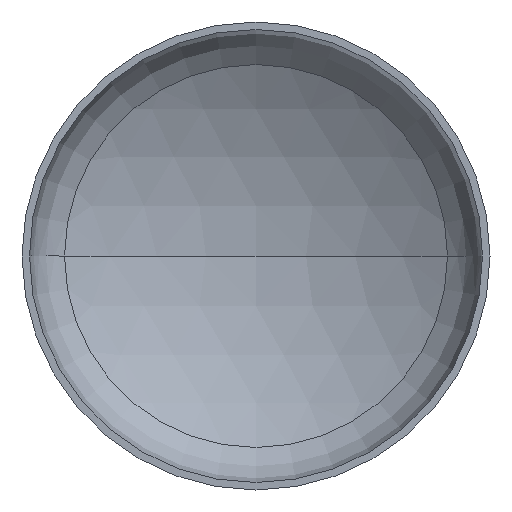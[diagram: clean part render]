
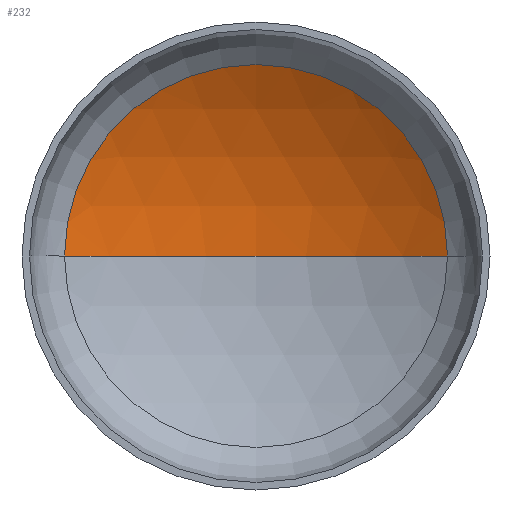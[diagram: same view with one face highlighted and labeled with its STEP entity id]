
A CAD part, front view. The second image highlights one B-rep face of the part: STEP entity #232.
In plain terms, the highlighted spherical face has radius 2400 mm.
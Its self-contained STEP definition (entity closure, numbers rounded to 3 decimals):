
#5 = VERTEX_POINT ( 'NONE', #341 ) ;
#18 = DIRECTION ( 'NONE',  ( 1., 0., 0. ) ) ;
#23 = DIRECTION ( 'NONE',  ( 0., -1., 0. ) ) ;
#26 = EDGE_LOOP ( 'NONE', ( #83, #31, #27 ) ) ;
#27 = ORIENTED_EDGE ( 'NONE', *, *, #141, .T. ) ;
#31 = ORIENTED_EDGE ( 'NONE', *, *, #147, .T. ) ;
#39 = AXIS2_PLACEMENT_3D ( 'NONE', #235, #278, #52 ) ;
#52 = DIRECTION ( 'NONE',  ( -1., 0., 0. ) ) ;
#55 = AXIS2_PLACEMENT_3D ( 'NONE', #192, #197, #200 ) ;
#57 = AXIS2_PLACEMENT_3D ( 'NONE', #351, #302, #122 ) ;
#59 = AXIS2_PLACEMENT_3D ( 'NONE', #346, #23, #18 ) ;
#60 = FACE_OUTER_BOUND ( 'NONE', #26, .T. ) ;
#65 = VERTEX_POINT ( 'NONE', #344 ) ;
#83 = ORIENTED_EDGE ( 'NONE', *, *, #152, .F. ) ;
#109 = VERTEX_POINT ( 'NONE', #189 ) ;
#122 = DIRECTION ( 'NONE',  ( -1., 0., 0. ) ) ;
#141 = EDGE_CURVE ( 'NONE', #5, #65, #259, .T. ) ;
#147 = EDGE_CURVE ( 'NONE', #109, #5, #320, .T. ) ;
#152 = EDGE_CURVE ( 'NONE', #109, #65, #379, .T. ) ;
#173 = SPHERICAL_SURFACE ( 'NONE', #39, 2400. ) ;
#189 = CARTESIAN_POINT ( 'NONE',  ( 0., 882.806, 0. ) ) ;
#192 = CARTESIAN_POINT ( 'NONE',  ( 0., -1517.194, 0. ) ) ;
#197 = DIRECTION ( 'NONE',  ( 0., 0., 1. ) ) ;
#200 = DIRECTION ( 'NONE',  ( 1., 0., 0. ) ) ;
#232 = ADVANCED_FACE ( 'NONE', ( #60 ), #173, .F. ) ;
#235 = CARTESIAN_POINT ( 'NONE',  ( 0., -1517.194, 0. ) ) ;
#259 = CIRCLE ( 'NONE', #59, 1227.216 ) ;
#278 = DIRECTION ( 'NONE',  ( 0., 0., -1. ) ) ;
#302 = DIRECTION ( 'NONE',  ( 0., 0., -1. ) ) ;
#320 = CIRCLE ( 'NONE', #57, 2400. ) ;
#341 = CARTESIAN_POINT ( 'NONE',  ( 1227.216, 545.314, 0. ) ) ;
#344 = CARTESIAN_POINT ( 'NONE',  ( -1227.216, 545.314, 0. ) ) ;
#346 = CARTESIAN_POINT ( 'NONE',  ( 0., 545.314, 0. ) ) ;
#351 = CARTESIAN_POINT ( 'NONE',  ( 0., -1517.194, 0. ) ) ;
#379 = CIRCLE ( 'NONE', #55, 2400. ) ;
